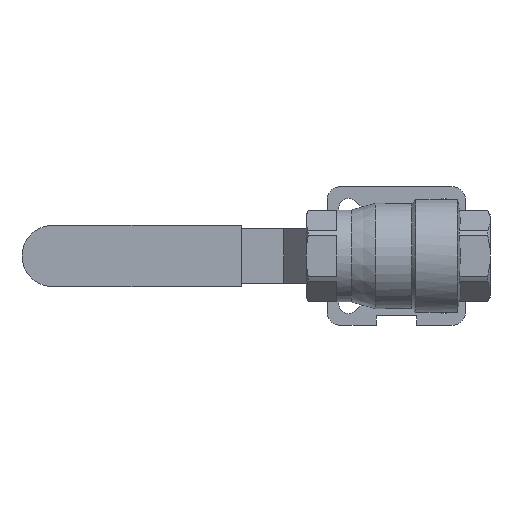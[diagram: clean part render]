
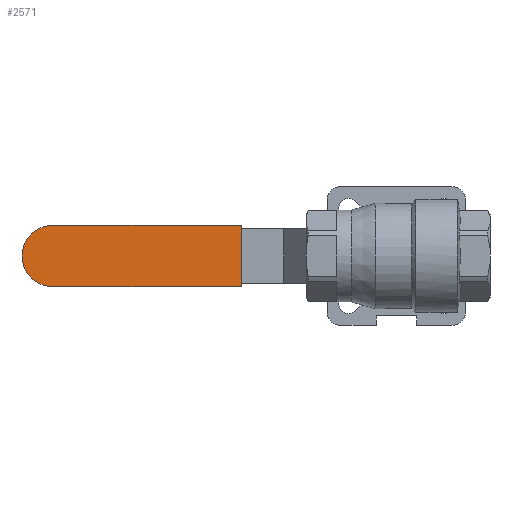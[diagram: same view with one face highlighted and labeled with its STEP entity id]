
A CAD part, front view. The second image highlights one B-rep face of the part: STEP entity #2571.
In plain terms, the highlighted planar face has unit normal (0, -1, 0).
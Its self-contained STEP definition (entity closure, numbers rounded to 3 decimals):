
#160 = CARTESIAN_POINT ( 'NONE',  ( -48., 61.5, -9.5 ) ) ;
#349 = ORIENTED_EDGE ( 'NONE', *, *, #427, .F. ) ;
#422 = EDGE_CURVE ( 'NONE', #2130, #1529, #848, .T. ) ;
#427 = EDGE_CURVE ( 'NONE', #3373, #2130, #1695, .T. ) ;
#454 = EDGE_CURVE ( 'NONE', #3373, #1039, #1531, .T. ) ;
#471 = EDGE_CURVE ( 'NONE', #1039, #1529, #1078, .T. ) ;
#848 = LINE ( 'NONE', #2825, #3243 ) ;
#909 = ORIENTED_EDGE ( 'NONE', *, *, #422, .F. ) ;
#1039 = VERTEX_POINT ( 'NONE', #1214 ) ;
#1078 = LINE ( 'NONE', #2744, #3489 ) ;
#1214 = CARTESIAN_POINT ( 'NONE',  ( -106.5, 61.5, -9.5 ) ) ;
#1529 = VERTEX_POINT ( 'NONE', #160 ) ;
#1531 = CIRCLE ( 'NONE', #4113, 9.5 ) ;
#1590 = PLANE ( 'NONE',  #2798 ) ;
#1628 = DIRECTION ( 'NONE',  ( 0., 0., 1. ) ) ;
#1634 = DIRECTION ( 'NONE',  ( 0., 1., 0. ) ) ;
#1688 = CARTESIAN_POINT ( 'NONE',  ( -116., 61.5, 9.5 ) ) ;
#1695 = LINE ( 'NONE', #2831, #3858 ) ;
#2130 = VERTEX_POINT ( 'NONE', #3109 ) ;
#2419 = EDGE_LOOP ( 'NONE', ( #349, #2576, #3433, #909 ) ) ;
#2571 = ADVANCED_FACE ( 'NONE', ( #3706 ), #1590, .F. ) ;
#2576 = ORIENTED_EDGE ( 'NONE', *, *, #454, .T. ) ;
#2744 = CARTESIAN_POINT ( 'NONE',  ( -116., 61.5, -9.5 ) ) ;
#2772 = DIRECTION ( 'NONE',  ( 0., 0., 1. ) ) ;
#2773 = DIRECTION ( 'NONE',  ( 0., -1., 0. ) ) ;
#2776 = CARTESIAN_POINT ( 'NONE',  ( -106.5, 61.5, 0. ) ) ;
#2798 = AXIS2_PLACEMENT_3D ( 'NONE', #1688, #1634, #1628 ) ;
#2812 = DIRECTION ( 'NONE',  ( 1., 0., 0. ) ) ;
#2821 = DIRECTION ( 'NONE',  ( 0., 0., -1. ) ) ;
#2825 = CARTESIAN_POINT ( 'NONE',  ( -48., 61.5, 9.5 ) ) ;
#2831 = CARTESIAN_POINT ( 'NONE',  ( -116., 61.5, 9.5 ) ) ;
#2841 = DIRECTION ( 'NONE',  ( 1., 0., 0. ) ) ;
#3109 = CARTESIAN_POINT ( 'NONE',  ( -48., 61.5, 9.5 ) ) ;
#3189 = CARTESIAN_POINT ( 'NONE',  ( -106.5, 61.5, 9.5 ) ) ;
#3243 = VECTOR ( 'NONE', #2821, 1000. ) ;
#3373 = VERTEX_POINT ( 'NONE', #3189 ) ;
#3433 = ORIENTED_EDGE ( 'NONE', *, *, #471, .T. ) ;
#3489 = VECTOR ( 'NONE', #2812, 1000. ) ;
#3706 = FACE_OUTER_BOUND ( 'NONE', #2419, .T. ) ;
#3858 = VECTOR ( 'NONE', #2841, 1000. ) ;
#4113 = AXIS2_PLACEMENT_3D ( 'NONE', #2776, #2773, #2772 ) ;
